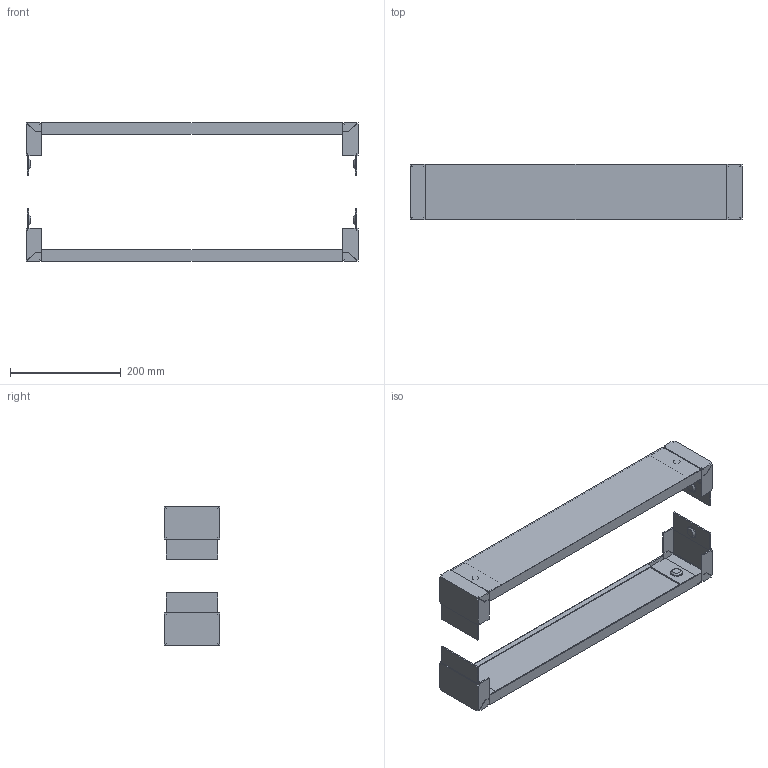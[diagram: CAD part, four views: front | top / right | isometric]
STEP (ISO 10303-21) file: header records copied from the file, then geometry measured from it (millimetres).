
FILE_DESCRIPTION( ( 'STEP AP214' ), '1' );
FILE_NAME( 'p:/temp/worker_202/temp/exporttempdir_568_250_0psdl/format_0/P1060(0).stp', '2021-03-16T11:01:37', ( 'License CC BY-ND 4.0' ), ( 'CADENAS' ), ' ', 'PARTsolutions', ' ' );
FILE_SCHEMA( ( 'AUTOMOTIVE_DESIGN { 1 0 10303 214 1 1 1 1 }' ) );
Length unit declared in the file: millimetre
Products named in the file (3): P1060(0); _P1060(0)_P1; _P1060(0)_P2
Assembly tree (6 placements, depth 2):
  P1060(0)
    _P1060(0)_P1  x2
    _P1060(0)_P2  x4
Bounding box: 600 x 100 x 251.08 mm (x, y, z)
Volume: 414482.5 mm3; surface area: 454921.9 mm2
Topology: 6 solids, 6 shells, 288 faces, 784 edges, 520 vertices
Faces by surface type: plane 268, cone 12, torus 8
Entity records: 3212 total; most frequent: CARTESIAN_POINT 445, ORIENTED_EDGE 424, DIRECTION 400, EDGE_CURVE 212, LINE 202, VECTOR 202, VERTEX_POINT 144, AXIS2_PLACEMENT_3D 99
